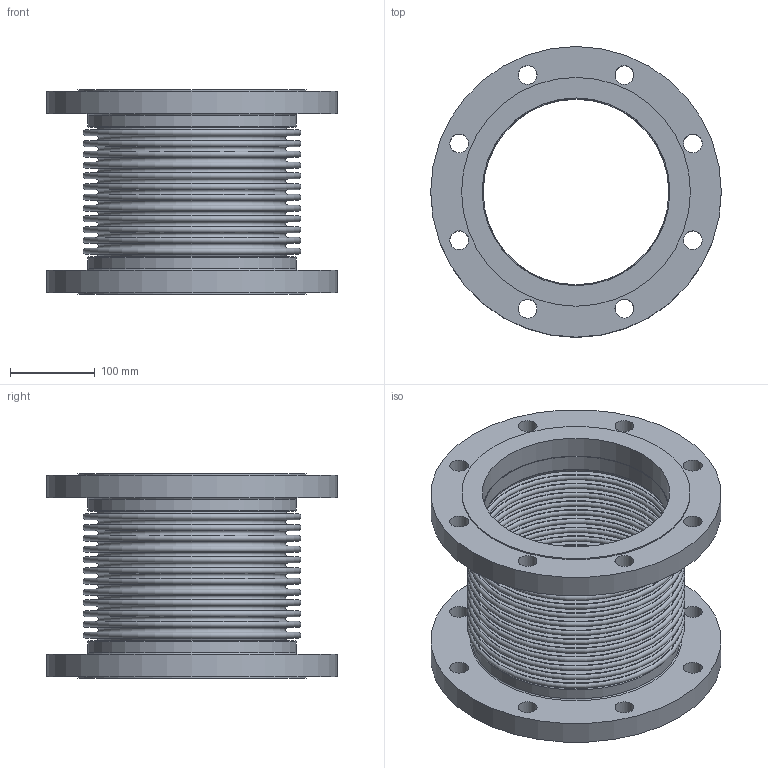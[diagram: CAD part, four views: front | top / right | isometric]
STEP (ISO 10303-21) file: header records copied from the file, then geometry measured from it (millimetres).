
FILE_DESCRIPTION(/* description */ ('EXPANSION JOINT,SINGLE, FLANGED ENDS,8 INCH NOMINAL','CAx-IF Rec.Pracs.---Representation and Presentation of Product Manufacturing Information (PMI)---4.0---2014-10-13'),/* implementation_level */ '2;1');
FILE_NAME(/* name */ 'US-08-12-85L-FLANGED ENDS.stp',/* time_stamp */ '2026-07-31T17:14:34-05:00',/* author */ ('Guadalupe'),/* organization */ (''),/* preprocessor_version */ 'ST-DEVELOPER v20.1',/* originating_system */ 'Autodesk Inventor 2026',/* authorisation */ '');
FILE_SCHEMA (('AP242_MANAGED_MODEL_BASED_3D_ENGINEERING_MIM_LF { 1 0 10303 442 2 1 4 }'));
Length unit declared in the file: inch
Products named in the file (3): 08-85L; 08-85L-02; 08-85L-01
Assembly tree (3 placements, depth 2):
  08-85L
    08-85L-02  x2
    08-85L-01
Bounding box: 342.9 x 342.9 x 241.3 mm (x, y, z)
Volume: 3397397 mm3; surface area: 1220741.3 mm2
Topology: 5 solids, 5 shells, 144 faces, 246 edges, 164 vertices
Faces by surface type: plane 62, torus 54, cylinder 28
Full cylindrical faces by diameter (mm): 22.225 x16, 219.075 x2, 220.599 x2, 221.488 x2, 246.126 x2, 270.002 x2, 342.9 x2
Entity records: 3294 total; most frequent: DIRECTION 682, CARTESIAN_POINT 489, ORIENTED_EDGE 408, AXIS2_PLACEMENT_3D 333, EDGE_CURVE 204, EDGE_LOOP 200, CIRCLE 188, VERTEX_POINT 136
